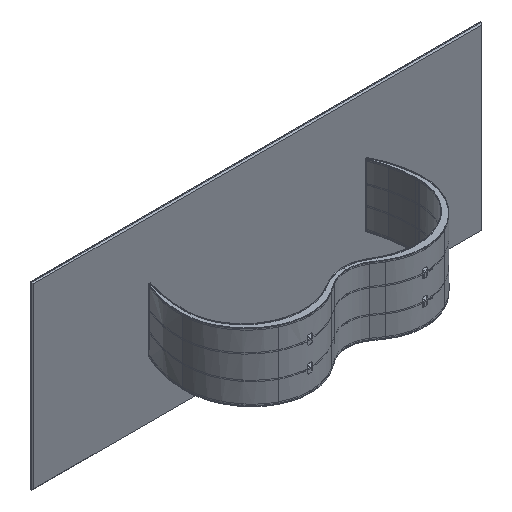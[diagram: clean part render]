
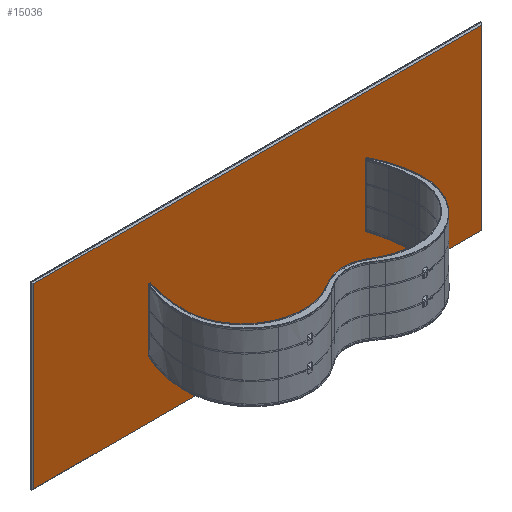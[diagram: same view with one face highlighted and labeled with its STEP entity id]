
A CAD part, isometric view. The second image highlights one B-rep face of the part: STEP entity #15036.
In plain terms, the highlighted planar face has unit normal (0, -1, 0).
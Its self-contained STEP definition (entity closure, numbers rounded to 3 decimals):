
#237 = CARTESIAN_POINT ( 'NONE',  ( 1492., 0., 592. ) ) ;
#1010 = DIRECTION ( 'NONE',  ( 0., 0., -1. ) ) ;
#1292 = VECTOR ( 'NONE', #1010, 1000. ) ;
#1309 = DIRECTION ( 'NONE',  ( 1., 0., 0. ) ) ;
#1498 = DIRECTION ( 'NONE',  ( 0., 0., 1. ) ) ;
#2497 = VECTOR ( 'NONE', #3009, 1000. ) ;
#2627 = EDGE_CURVE ( 'NONE', #17839, #22940, #15053, .T. ) ;
#2774 = ORIENTED_EDGE ( 'NONE', *, *, #29877, .T. ) ;
#3009 = DIRECTION ( 'NONE',  ( 0., 0., 1. ) ) ;
#4333 = CARTESIAN_POINT ( 'NONE',  ( 0., 0., 592. ) ) ;
#4603 = AXIS2_PLACEMENT_3D ( 'NONE', #30428, #22613, #1498 ) ;
#4830 = VECTOR ( 'NONE', #30495, 1000. ) ;
#5568 = LINE ( 'NONE', #26389, #2497 ) ;
#6406 = VERTEX_POINT ( 'NONE', #9796 ) ;
#8712 = EDGE_LOOP ( 'NONE', ( #26737, #29927, #9784, #2774 ) ) ;
#9784 = ORIENTED_EDGE ( 'NONE', *, *, #26705, .T. ) ;
#9796 = CARTESIAN_POINT ( 'NONE',  ( 1492., 0., -592. ) ) ;
#10875 = CARTESIAN_POINT ( 'NONE',  ( -1492., 0., 0. ) ) ;
#15036 = ADVANCED_FACE ( 'NONE', ( #19857 ), #25401, .F. ) ;
#15053 = LINE ( 'NONE', #4333, #4830 ) ;
#17839 = VERTEX_POINT ( 'NONE', #237 ) ;
#19857 = FACE_OUTER_BOUND ( 'NONE', #8712, .T. ) ;
#20134 = EDGE_CURVE ( 'NONE', #6406, #17839, #5568, .T. ) ;
#22501 = CARTESIAN_POINT ( 'NONE',  ( -1492., 0., 592. ) ) ;
#22613 = DIRECTION ( 'NONE',  ( 0., 1., 0. ) ) ;
#22940 = VERTEX_POINT ( 'NONE', #22501 ) ;
#23616 = VECTOR ( 'NONE', #1309, 1000. ) ;
#25401 = PLANE ( 'NONE',  #4603 ) ;
#25513 = VERTEX_POINT ( 'NONE', #27231 ) ;
#26389 = CARTESIAN_POINT ( 'NONE',  ( 1492., 0., 0. ) ) ;
#26705 = EDGE_CURVE ( 'NONE', #22940, #25513, #32534, .T. ) ;
#26737 = ORIENTED_EDGE ( 'NONE', *, *, #20134, .T. ) ;
#27231 = CARTESIAN_POINT ( 'NONE',  ( -1492., 0., -592. ) ) ;
#27988 = CARTESIAN_POINT ( 'NONE',  ( 0., 0., -592. ) ) ;
#29877 = EDGE_CURVE ( 'NONE', #25513, #6406, #33326, .T. ) ;
#29927 = ORIENTED_EDGE ( 'NONE', *, *, #2627, .T. ) ;
#30428 = CARTESIAN_POINT ( 'NONE',  ( 0., 0., 0. ) ) ;
#30495 = DIRECTION ( 'NONE',  ( -1., 0., 0. ) ) ;
#32534 = LINE ( 'NONE', #10875, #1292 ) ;
#33326 = LINE ( 'NONE', #27988, #23616 ) ;
